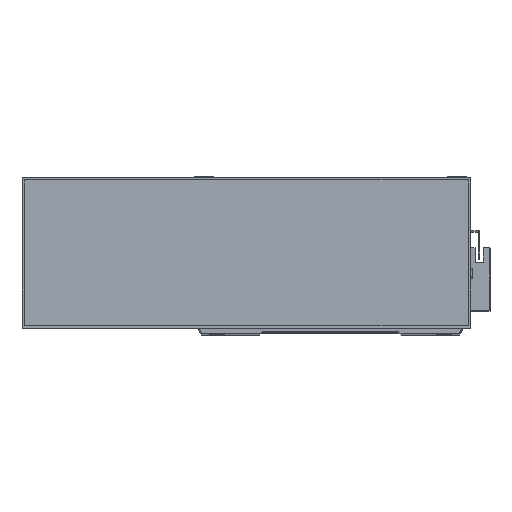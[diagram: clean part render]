
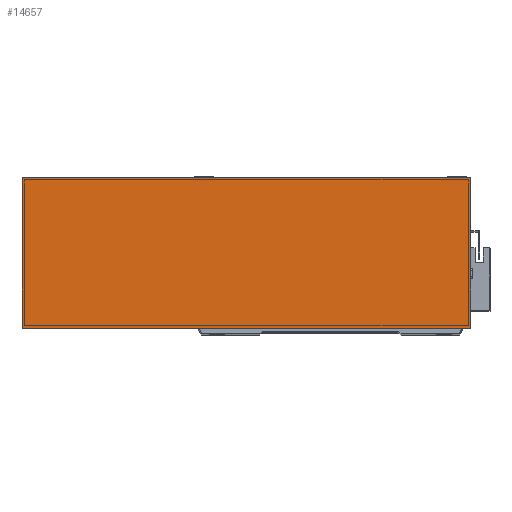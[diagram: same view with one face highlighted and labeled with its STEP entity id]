
A CAD part, top view. The second image highlights one B-rep face of the part: STEP entity #14657.
In plain terms, the highlighted planar face has unit normal (0, 0, 1).
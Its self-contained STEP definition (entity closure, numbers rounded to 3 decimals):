
#563 = CARTESIAN_POINT ( 'NONE',  ( 0., 93., 50. ) ) ;
#1945 = CARTESIAN_POINT ( 'NONE',  ( 277., 0., 50. ) ) ;
#2003 = DIRECTION ( 'NONE',  ( 0., 1., 0. ) ) ;
#2304 = FACE_OUTER_BOUND ( 'NONE', #2520, .T. ) ;
#2520 = EDGE_LOOP ( 'NONE', ( #18188, #12331, #19262, #19580 ) ) ;
#2920 = VERTEX_POINT ( 'NONE', #4446 ) ;
#4342 = EDGE_CURVE ( 'NONE', #2920, #15686, #11875, .T. ) ;
#4446 = CARTESIAN_POINT ( 'NONE',  ( 277., 93., 50. ) ) ;
#4612 = DIRECTION ( 'NONE',  ( 0., 0., -1. ) ) ;
#4819 = DIRECTION ( 'NONE',  ( -1., 0., 0. ) ) ;
#6255 = AXIS2_PLACEMENT_3D ( 'NONE', #13022, #4612, #19454 ) ;
#6365 = CARTESIAN_POINT ( 'NONE',  ( 0., 0., 50. ) ) ;
#6649 = DIRECTION ( 'NONE',  ( 1., 0., 0. ) ) ;
#7097 = EDGE_CURVE ( 'NONE', #10434, #2920, #22729, .T. ) ;
#7295 = LINE ( 'NONE', #8776, #24872 ) ;
#8776 = CARTESIAN_POINT ( 'NONE',  ( 0., 0., 50. ) ) ;
#10107 = CARTESIAN_POINT ( 'NONE',  ( 0., 93., 50. ) ) ;
#10434 = VERTEX_POINT ( 'NONE', #1945 ) ;
#10574 = LINE ( 'NONE', #6365, #21855 ) ;
#11810 = CARTESIAN_POINT ( 'NONE',  ( 0., 0., 50. ) ) ;
#11875 = LINE ( 'NONE', #563, #16848 ) ;
#12331 = ORIENTED_EDGE ( 'NONE', *, *, #14632, .T. ) ;
#13022 = CARTESIAN_POINT ( 'NONE',  ( 0., 0., 50. ) ) ;
#14632 = EDGE_CURVE ( 'NONE', #16802, #10434, #7295, .T. ) ;
#14657 = ADVANCED_FACE ( 'NONE', ( #2304 ), #17309, .F. ) ;
#14762 = DIRECTION ( 'NONE',  ( 0., -1., 0. ) ) ;
#15686 = VERTEX_POINT ( 'NONE', #10107 ) ;
#16802 = VERTEX_POINT ( 'NONE', #11810 ) ;
#16834 = CARTESIAN_POINT ( 'NONE',  ( 277., 0., 50. ) ) ;
#16848 = VECTOR ( 'NONE', #4819, 1000. ) ;
#17309 = PLANE ( 'NONE',  #6255 ) ;
#18188 = ORIENTED_EDGE ( 'NONE', *, *, #19944, .T. ) ;
#19262 = ORIENTED_EDGE ( 'NONE', *, *, #7097, .T. ) ;
#19454 = DIRECTION ( 'NONE',  ( -1., 0., 0. ) ) ;
#19580 = ORIENTED_EDGE ( 'NONE', *, *, #4342, .T. ) ;
#19944 = EDGE_CURVE ( 'NONE', #15686, #16802, #10574, .T. ) ;
#21855 = VECTOR ( 'NONE', #14762, 1000. ) ;
#22061 = VECTOR ( 'NONE', #2003, 1000. ) ;
#22729 = LINE ( 'NONE', #16834, #22061 ) ;
#24872 = VECTOR ( 'NONE', #6649, 1000. ) ;
